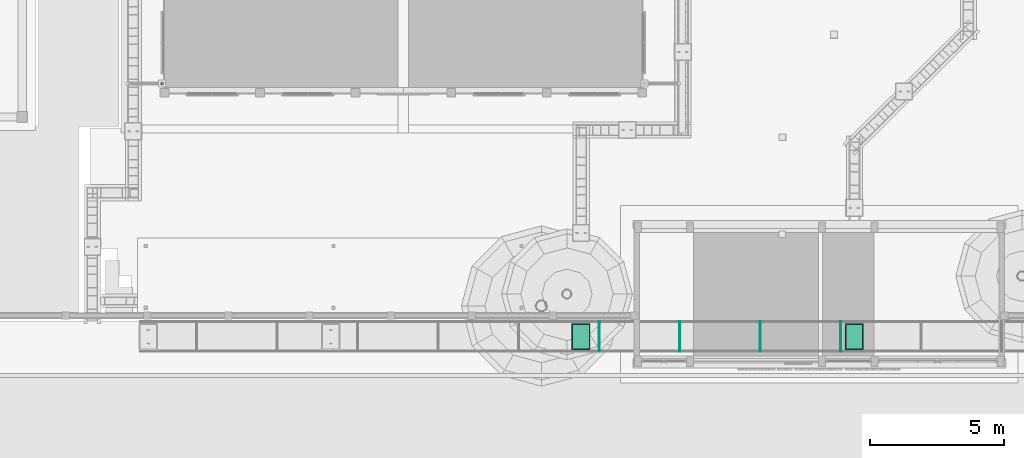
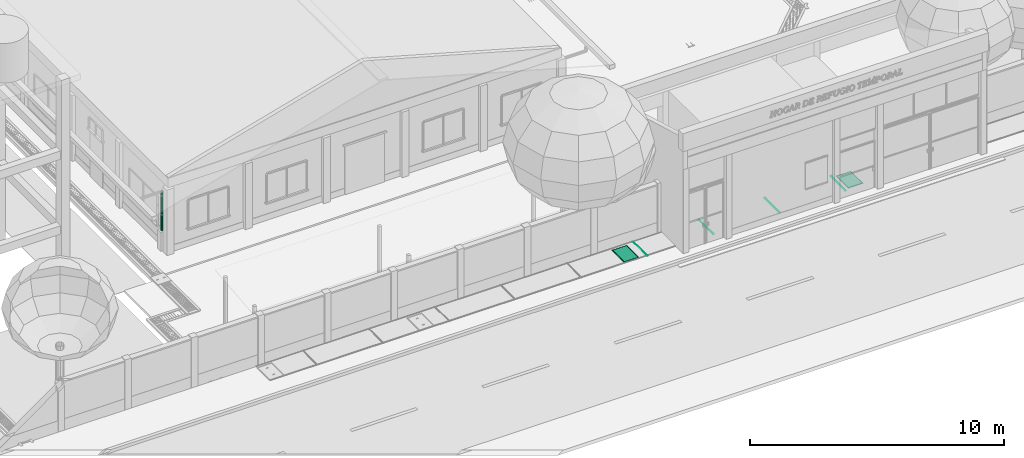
# One storey, part 88 of 166: 5 flow segments, 4 distribution chamber elements.
"""IFC2X3 building model written with IfcOpenShell, lengths in metres."""

from ifc_helpers import new_model, si_unit, origin, origin_with_axes, place, context, subcontext, project, spatial, faceted_brep, element, save


model = new_model("IFC2X3")

# Units and contexts
model_context = context("Model", 3, precision=1e-05, world=origin_with_axes())
body_context = subcontext(model_context, "Body", "Model", "MODEL_VIEW")
ifc_project = project(units=[si_unit("LENGTHUNIT", "METRE"), si_unit("AREAUNIT", "SQUARE_METRE"), si_unit("VOLUMEUNIT", "CUBIC_METRE"), si_unit("PLANEANGLEUNIT", "RADIAN")], contexts=[model_context])

# Site, building, storey
site_placement = place(None, origin_with_axes())
site = spatial("IfcSite", under=ifc_project, at=site_placement, Name="Predio Los Mangos - Morales, San Martín", CompositionType="ELEMENT")
building_placement = place(site_placement, origin())
building = spatial("IfcBuilding", under=site, at=building_placement, Name="Hogar de Refugio Temporal", CompositionType="ELEMENT")
storey_placement = place(building_placement, origin())
storey = spatial("IfcBuildingStorey", under=building, at=storey_placement, Name="NIVEL 1 (NPT +0.00)", CompositionType="ELEMENT", Elevation=0.0)

# Flow segments
flow_segment_1_placement = place(storey_placement, origin())
element("IfcFlowSegment", 1, at=flow_segment_1_placement, inside=storey, Name="montante_bajada", ObjectType="Montante PVC 4\"", context=body_context, shape_type="Brep", body=[
    faceted_brep([(13.71, 26.705, 2.91), (13.71, 26.705, 1.05), (13.6825, 26.6976, 1.05), (13.6825, 26.6976, 2.91), (13.6624, 26.6775, 1.05), (13.6624, 26.6775, 2.91), (13.655, 26.65, 1.05), (13.655, 26.65, 2.91), (13.6624, 26.6225, 1.05), (13.6624, 26.6225, 2.91), (13.6825, 26.6024, 1.05), (13.6825, 26.6024, 2.91), (13.71, 26.595, 1.05), (13.71, 26.595, 2.91), (13.7375, 26.6024, 1.05), (13.7375, 26.6024, 2.91), (13.7576, 26.6225, 1.05), (13.7576, 26.6225, 2.91), (13.765, 26.65, 1.05), (13.765, 26.65, 2.91), (13.7576, 26.6775, 1.05), (13.7576, 26.6775, 2.91), (13.7375, 26.6976, 1.05), (13.7375, 26.6976, 2.91)], [[[0, 1, 2, 3]], [[3, 2, 4, 5]], [[5, 4, 6, 7]], [[7, 6, 8, 9]], [[9, 8, 10, 11]], [[11, 10, 12, 13]], [[13, 12, 14, 15]], [[15, 14, 16, 17]], [[17, 16, 18, 19]], [[19, 18, 20, 21]], [[2, 1, 22, 20, 18, 16, 14, 12, 10, 8, 6, 4]], [[21, 20, 22, 23]], [[23, 22, 1, 0]], [[0, 3, 5, 7, 9, 11, 13, 15, 17, 19, 21, 23]]]),
])
flow_segment_2_placement = place(storey_placement, origin())
element("IfcFlowSegment", 2, at=flow_segment_2_placement, inside=storey, Name="junta_losa", ObjectType="Colector frontal b=0.80 (losa-vereda)", context=body_context, shape_type="Brep", body=[
    faceted_brep([(38.9873, 16.665, 0.15), (38.9873, 17.79, 0.15), (39.0127, 17.79, 0.15), (39.0127, 16.665, 0.15), (38.9873, 16.665, 0.1635), (39.0127, 16.665, 0.1635), (39.0127, 17.79, 0.1635), (38.9873, 17.79, 0.1635)], [[[0, 1, 2, 3]], [[4, 5, 6, 7]], [[0, 3, 5, 4]], [[3, 2, 6, 5]], [[2, 1, 7, 6]], [[1, 0, 4, 7]]]),
])
flow_segment_3_placement = place(storey_placement, origin())
element("IfcFlowSegment", 3, at=flow_segment_3_placement, inside=storey, Name="junta_losa", ObjectType="Colector frontal b=0.80 (losa-vereda)", context=body_context, shape_type="Brep", body=[
    faceted_brep([(35.9873, 16.665, 0.15), (35.9873, 17.79, 0.15), (36.0127, 17.79, 0.15), (36.0127, 16.665, 0.15), (35.9873, 16.665, 0.1635), (36.0127, 16.665, 0.1635), (36.0127, 17.79, 0.1635), (35.9873, 17.79, 0.1635)], [[[0, 1, 2, 3]], [[4, 5, 6, 7]], [[0, 3, 5, 4]], [[3, 2, 6, 5]], [[2, 1, 7, 6]], [[1, 0, 4, 7]]]),
])
flow_segment_4_placement = place(storey_placement, origin())
element("IfcFlowSegment", 4, at=flow_segment_4_placement, inside=storey, Name="junta_losa", ObjectType="Colector frontal b=0.80 (losa-vereda)", context=body_context, shape_type="Brep", body=[
    faceted_brep([(32.9873, 16.665, 0.15), (32.9873, 17.79, 0.15), (33.0127, 17.79, 0.15), (33.0127, 16.665, 0.15), (32.9873, 16.665, 0.1635), (33.0127, 16.665, 0.1635), (33.0127, 17.79, 0.1635), (32.9873, 17.79, 0.1635)], [[[0, 1, 2, 3]], [[4, 5, 6, 7]], [[0, 3, 5, 4]], [[3, 2, 6, 5]], [[2, 1, 7, 6]], [[1, 0, 4, 7]]]),
])
flow_segment_5_placement = place(storey_placement, origin())
element("IfcFlowSegment", 5, at=flow_segment_5_placement, inside=storey, Name="junta_losa", ObjectType="Colector frontal b=0.80 (losa-vereda)", context=body_context, shape_type="Brep", body=[
    faceted_brep([(29.9873, 16.665, 0.15), (29.9873, 17.79, 0.15), (30.0127, 17.79, 0.15), (30.0127, 16.665, 0.15), (29.9873, 16.665, 0.1635), (30.0127, 16.665, 0.1635), (30.0127, 17.79, 0.1635), (29.9873, 17.79, 0.1635)], [[[0, 1, 2, 3]], [[4, 5, 6, 7]], [[0, 3, 5, 4]], [[3, 2, 6, 5]], [[2, 1, 7, 6]], [[1, 0, 4, 7]]]),
])

# Distribution chamber elements
distribution_chamber_element_1_placement = place(storey_placement, origin())
element("IfcDistributionChamberElement", 6, at=distribution_chamber_element_1_placement, inside=storey, Name="tapa_junta", ObjectType="Tapa ciega de registro del colector", context=body_context, shape_type="Brep", body=[
    faceted_brep([(39.155, 16.72, 0.161), (39.155, 17.71, 0.161), (39.845, 17.71, 0.161), (39.845, 16.72, 0.161), (39.155, 16.72, 0.164), (39.845, 16.72, 0.164), (39.845, 17.71, 0.164), (39.155, 17.71, 0.164)], [[[0, 1, 2, 3]], [[4, 5, 6, 7]], [[0, 3, 5, 4]], [[3, 2, 6, 5]], [[2, 1, 7, 6]], [[1, 0, 4, 7]]]),
])
distribution_chamber_element_2_placement = place(storey_placement, origin())
element("IfcDistributionChamberElement", 7, at=distribution_chamber_element_2_placement, inside=storey, Name="tapa_ciega", ObjectType="Tapa ciega de registro del colector", context=body_context, shape_type="Brep", body=[
    faceted_brep([(39.19, 16.755, 0.161), (39.19, 17.675, 0.161), (39.81, 17.675, 0.161), (39.81, 16.755, 0.161), (39.19, 16.755, 0.17), (39.81, 16.755, 0.17), (39.81, 17.675, 0.17), (39.19, 17.675, 0.17)], [[[0, 1, 2, 3]], [[4, 5, 6, 7]], [[0, 3, 5, 4]], [[3, 2, 6, 5]], [[2, 1, 7, 6]], [[1, 0, 4, 7]]]),
])
distribution_chamber_element_3_placement = place(storey_placement, origin())
element("IfcDistributionChamberElement", 8, at=distribution_chamber_element_3_placement, inside=storey, Name="tapa_junta", ObjectType="Tapa ciega de registro del colector", context=body_context, shape_type="Brep", body=[
    faceted_brep([(28.975, 16.72, 0.161), (28.975, 17.71, 0.161), (29.665, 17.71, 0.161), (29.665, 16.72, 0.161), (28.975, 16.72, 0.164), (29.665, 16.72, 0.164), (29.665, 17.71, 0.164), (28.975, 17.71, 0.164)], [[[0, 1, 2, 3]], [[4, 5, 6, 7]], [[0, 3, 5, 4]], [[3, 2, 6, 5]], [[2, 1, 7, 6]], [[1, 0, 4, 7]]]),
])
distribution_chamber_element_4_placement = place(storey_placement, origin())
element("IfcDistributionChamberElement", 9, at=distribution_chamber_element_4_placement, inside=storey, Name="tapa_ciega", ObjectType="Tapa ciega de registro del colector", context=body_context, shape_type="Brep", body=[
    faceted_brep([(29.01, 16.755, 0.161), (29.01, 17.675, 0.161), (29.63, 17.675, 0.161), (29.63, 16.755, 0.161), (29.01, 16.755, 0.17), (29.63, 16.755, 0.17), (29.63, 17.675, 0.17), (29.01, 17.675, 0.17)], [[[0, 1, 2, 3]], [[4, 5, 6, 7]], [[0, 3, 5, 4]], [[3, 2, 6, 5]], [[2, 1, 7, 6]], [[1, 0, 4, 7]]]),
])

save(model, "model.ifc")
